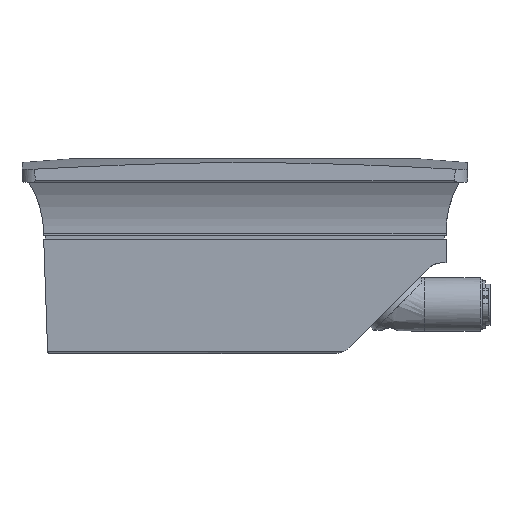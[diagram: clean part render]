
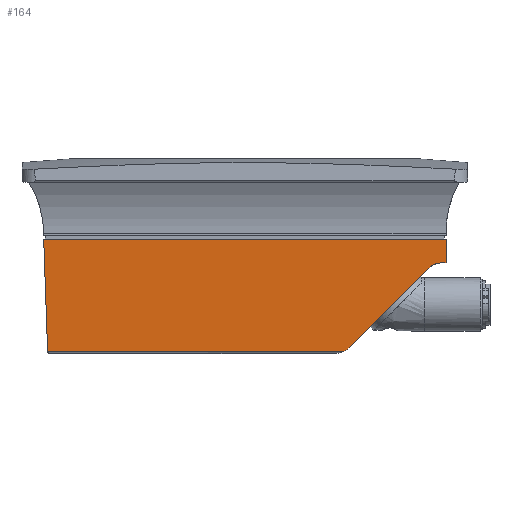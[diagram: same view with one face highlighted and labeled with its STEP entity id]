
A CAD part, left-side view. The second image highlights one B-rep face of the part: STEP entity #164.
In plain terms, the highlighted planar face has unit normal (-0.999, 0, -0.035).
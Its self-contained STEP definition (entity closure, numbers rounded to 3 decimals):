
#164 = ADVANCED_FACE( '', ( #440 ), #441, .T. );
#440 = FACE_OUTER_BOUND( '', #904, .T. );
#441 = PLANE( '', #905 );
#904 = EDGE_LOOP( '', ( #1800, #1801, #1802, #1803, #1804, #1805, #1806, #1807 ) );
#905 = AXIS2_PLACEMENT_3D( '', #1808, #1809, #1810 );
#1800 = ORIENTED_EDGE( '', *, *, #2398, .T. );
#1801 = ORIENTED_EDGE( '', *, *, #2345, .T. );
#1802 = ORIENTED_EDGE( '', *, *, #2491, .T. );
#1803 = ORIENTED_EDGE( '', *, *, #2217, .T. );
#1804 = ORIENTED_EDGE( '', *, *, #2450, .F. );
#1805 = ORIENTED_EDGE( '', *, *, #2451, .F. );
#1806 = ORIENTED_EDGE( '', *, *, #2443, .F. );
#1807 = ORIENTED_EDGE( '', *, *, #2441, .F. );
#1808 = CARTESIAN_POINT( '', ( -51., 60., 29. ) );
#1809 = DIRECTION( '', ( -0.999, 0., -0.035 ) );
#1810 = DIRECTION( '', ( -0.035, 0., 0.999 ) );
#2217 = EDGE_CURVE( '', #2577, #2578, #2579, .T. );
#2345 = EDGE_CURVE( '', #2821, #2816, #2822, .T. );
#2398 = EDGE_CURVE( '', #2918, #2821, #2919, .T. );
#2441 = EDGE_CURVE( '', #2918, #2982, #2983, .T. );
#2443 = EDGE_CURVE( '', #2982, #2985, #2986, .T. );
#2450 = EDGE_CURVE( '', #2995, #2578, #2997, .T. );
#2451 = EDGE_CURVE( '', #2985, #2995, #2998, .T. );
#2491 = EDGE_CURVE( '', #2816, #2577, #3056, .T. );
#2577 = VERTEX_POINT( '', #3199 );
#2578 = VERTEX_POINT( '', #3200 );
#2579 = ELLIPSE( '', #3201, 5.003, 5. );
#2816 = VERTEX_POINT( '', #3774 );
#2821 = VERTEX_POINT( '', #3780 );
#2822 = LINE( '', #3781, #3782 );
#2918 = VERTEX_POINT( '', #4368 );
#2919 = LINE( '', #4369, #4370 );
#2982 = VERTEX_POINT( '', #4656 );
#2983 = LINE( '', #4657, #4658 );
#2985 = VERTEX_POINT( '', #4661 );
#2986 = LINE( '', #4662, #4663 );
#2995 = VERTEX_POINT( '', #4737 );
#2997 = LINE( '', #4740, #4741 );
#2998 = ELLIPSE( '', #4742, 5.003, 5. );
#3056 = LINE( '', #4830, #4831 );
#3199 = CARTESIAN_POINT( '', ( -50.004, -25.072, 0.483 ) );
#3200 = CARTESIAN_POINT( '', ( -50.038, -26.464, 1.464 ) );
#3201 = AXIS2_PLACEMENT_3D( '', #5025, #5026, #5027 );
#3774 = CARTESIAN_POINT( '', ( -50.004, 50.004, 0.483 ) );
#3780 = CARTESIAN_POINT( '', ( -51., 51., 29. ) );
#3781 = CARTESIAN_POINT( '', ( -51.011, 51.011, 29.314 ) );
#3782 = VECTOR( '', #5206, 1000. );
#4368 = CARTESIAN_POINT( '', ( -51., -51.02, 29. ) );
#4369 = CARTESIAN_POINT( '', ( -51., 70., 29. ) );
#4370 = VECTOR( '', #5250, 1000. );
#4656 = CARTESIAN_POINT( '', ( -50.79, -51.02, 23. ) );
#4657 = CARTESIAN_POINT( '', ( -50.643, -51.02, 18.787 ) );
#4658 = VECTOR( '', #5305, 1000. );
#4661 = CARTESIAN_POINT( '', ( -50.79, -50.07, 23. ) );
#4662 = CARTESIAN_POINT( '', ( -50.79, -50.07, 23. ) );
#4663 = VECTOR( '', #5307, 1000. );
#4737 = CARTESIAN_POINT( '', ( -50.741, -46.596, 21.596 ) );
#4740 = CARTESIAN_POINT( '', ( -49.965, -24.37, -0.63 ) );
#4741 = VECTOR( '', #5313, 1000. );
#4742 = AXIS2_PLACEMENT_3D( '', #5314, #5315, #5316 );
#4830 = CARTESIAN_POINT( '', ( -50.004, 60., 0.483 ) );
#4831 = VECTOR( '', #5374, 1000. );
#5025 = CARTESIAN_POINT( '', ( -50.162, -22.929, 5. ) );
#5026 = DIRECTION( '', ( -0.999, 0., -0.035 ) );
#5027 = DIRECTION( '', ( -0.035, 0., 0.999 ) );
#5206 = DIRECTION( '', ( 0.035, -0.035, -0.999 ) );
#5250 = DIRECTION( '', ( 0., 1., 0. ) );
#5305 = DIRECTION( '', ( 0.035, 0., -0.999 ) );
#5307 = DIRECTION( '', ( 0., 1., 0. ) );
#5313 = DIRECTION( '', ( 0.025, 0.707, -0.707 ) );
#5314 = CARTESIAN_POINT( '', ( -50.616, -50.07, 18. ) );
#5315 = DIRECTION( '', ( -0.999, 0., -0.035 ) );
#5316 = DIRECTION( '', ( -0.035, 0., 0.999 ) );
#5374 = DIRECTION( '', ( 0., -1., 0. ) );
